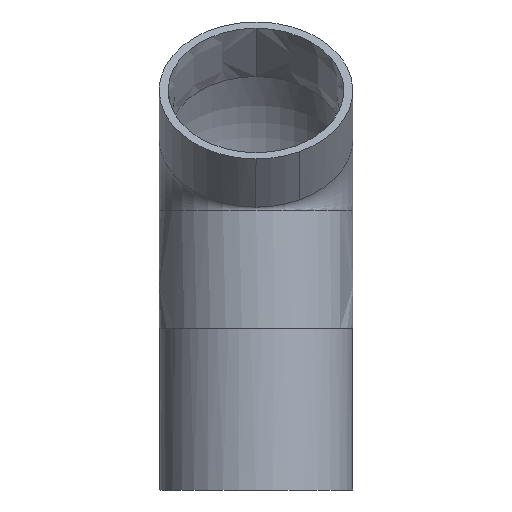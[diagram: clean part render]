
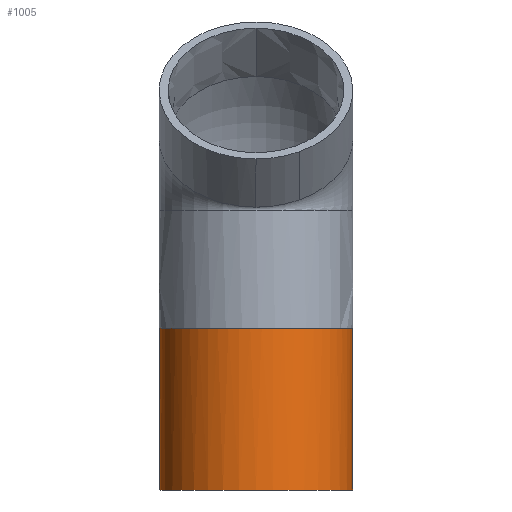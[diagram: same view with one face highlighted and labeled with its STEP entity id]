
A CAD part, front view. The second image highlights one B-rep face of the part: STEP entity #1005.
In plain terms, the highlighted cylindrical face has radius 67.5 mm (diameter 135 mm), a full revolution.
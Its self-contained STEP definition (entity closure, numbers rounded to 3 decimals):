
#46=FACE_BOUND('',#268,.T.);
#60=CYLINDRICAL_SURFACE('',#1113,67.5);
#200=FACE_OUTER_BOUND('',#267,.T.);
#267=EDGE_LOOP('',(#874));
#268=EDGE_LOOP('',(#875));
#304=CIRCLE('',#1107,67.5);
#306=CIRCLE('',#1111,67.5);
#457=VERTEX_POINT('',#6708);
#459=VERTEX_POINT('',#6714);
#596=EDGE_CURVE('',#457,#457,#304,.T.);
#598=EDGE_CURVE('',#459,#459,#306,.T.);
#874=ORIENTED_EDGE('',*,*,#596,.T.);
#875=ORIENTED_EDGE('',*,*,#598,.F.);
#1005=ADVANCED_FACE('',(#200,#46),#60,.T.);
#1107=AXIS2_PLACEMENT_3D('',#6709,#1311,#1312);
#1111=AXIS2_PLACEMENT_3D('',#6715,#1319,#1320);
#1113=AXIS2_PLACEMENT_3D('',#6718,#1323,#1324);
#1311=DIRECTION('center_axis',(0.,0.,-1.));
#1312=DIRECTION('ref_axis',(-1.,0.,0.));
#1319=DIRECTION('center_axis',(0.,0.,
-1.));
#1320=DIRECTION('ref_axis',(-1.,0.,0.));
#1323=DIRECTION('center_axis',(0.,0.,-1.));
#1324=DIRECTION('ref_axis',(-1.,0.,0.));
#6708=CARTESIAN_POINT('',(-67.5,0.,113.));
#6709=CARTESIAN_POINT('Origin',(0.,0.,
113.));
#6714=CARTESIAN_POINT('',(-67.5,0.,0.));
#6715=CARTESIAN_POINT('Origin',(0.,0.,
0.));
#6718=CARTESIAN_POINT('Origin',(0.,0.,
-1384.));
